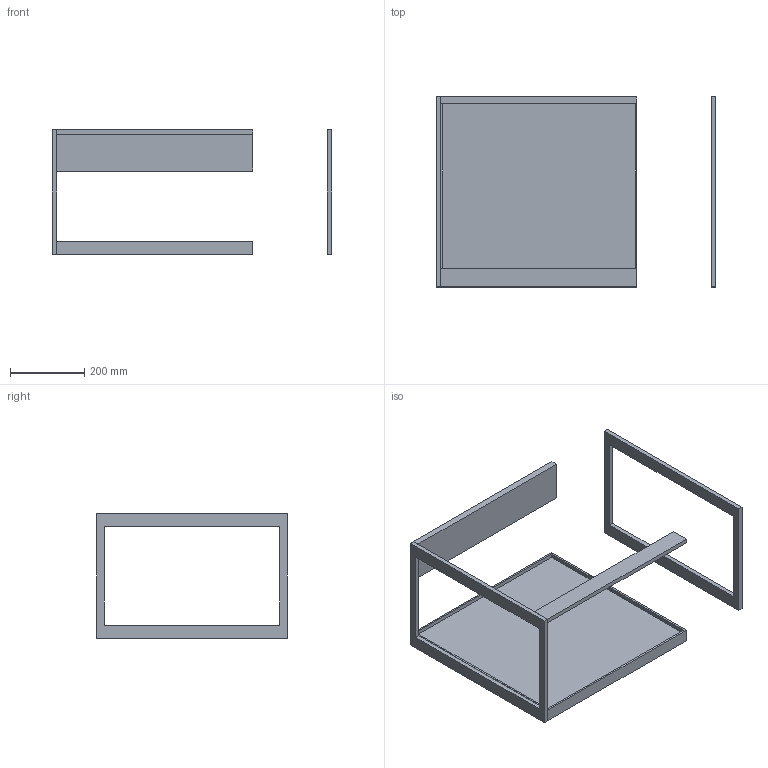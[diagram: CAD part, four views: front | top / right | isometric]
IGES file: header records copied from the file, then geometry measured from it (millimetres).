
Start section: Data from Parasolid IGES Translator 19.0.9, Copyright(c) 2006 Siemens PL M Software. All Rights Reserved.
Global section: file name: noorth-FJ-H 33,5 D 51,2 W 54_6695.igs; native system: By Siemens PLM Incorporated; preprocessor: XPlus GENERIC/IGES 19.0.9; author: Noname; organization: Noname; date: 20200507.120139; units: metre
Bounding box: 752 x 512 x 335 mm (x, y, z)
Volume: 9082777.1 mm3; surface area: 1105404.6 mm2
Topology: 5 solids, 5 shells, 43 faces, 96 edges, 64 vertices
Faces by surface type: plane 43
